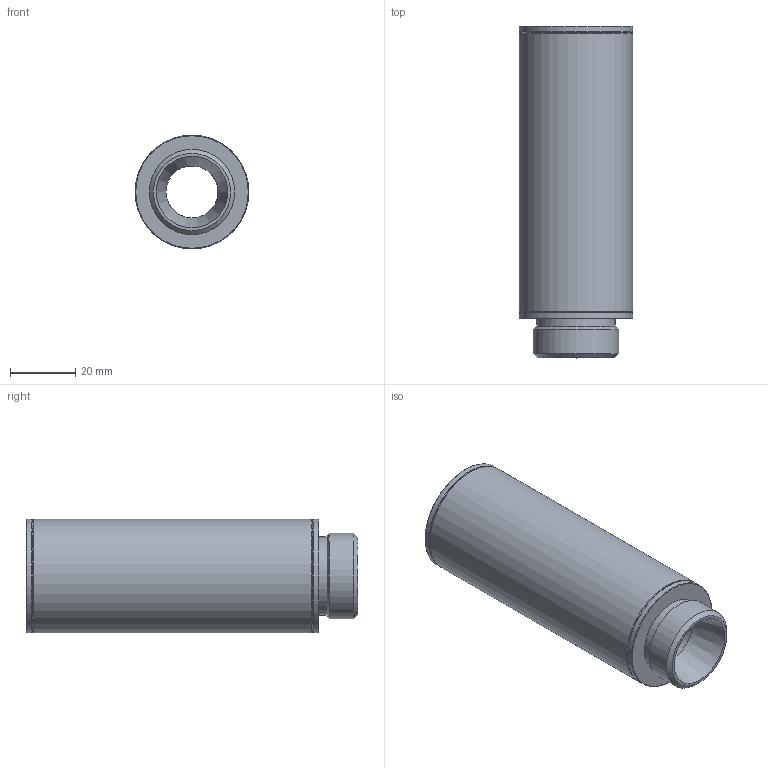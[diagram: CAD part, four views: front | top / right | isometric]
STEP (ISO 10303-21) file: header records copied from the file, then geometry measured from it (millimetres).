
FILE_DESCRIPTION(/* description */ ('SILEZIATORE G3/4" RIDOTTO'),/* implementation_level */ '2;1');
FILE_NAME(/* name */ 'C:\PNX_VAULTFOLDER\Area Tecnica\Disegni\VARIE-3D\Componenti\1900 (vuoto)\19S34_R.stp',/* time_stamp */ '2019-09-13T14:47:09+02:00',/* author */ ('maniean1'),/* organization */ ('Pneumax S.p.A.'),/* preprocessor_version */ 'ST-DEVELOPER v17',/* originating_system */ 'Autodesk Inventor 2019',/* authorisation */ '');
FILE_SCHEMA (('AUTOMOTIVE_DESIGN { 1 0 10303 214 3 1 1 }'));
Length unit declared in the file: millimetre
Products named in the file (1): 19S34.R
Bounding box: 35 x 102 x 35 mm (x, y, z)
Volume: 71273.7 mm3; surface area: 17569.5 mm2
Topology: 1 solids, 1 shells, 21 faces, 49 edges, 33 vertices
Faces by surface type: cone 10, cylinder 6, plane 5
Full cylindrical faces by diameter (mm): 16 x1, 24 x1, 26.2 x1, 35 x3
Entity records: 702 total; most frequent: DIRECTION 126, CARTESIAN_POINT 104, ORIENTED_EDGE 98, AXIS2_PLACEMENT_3D 55, EDGE_CURVE 49, CIRCLE 33, VERTEX_POINT 33, EDGE_LOOP 26
